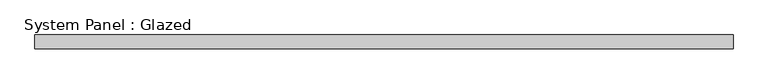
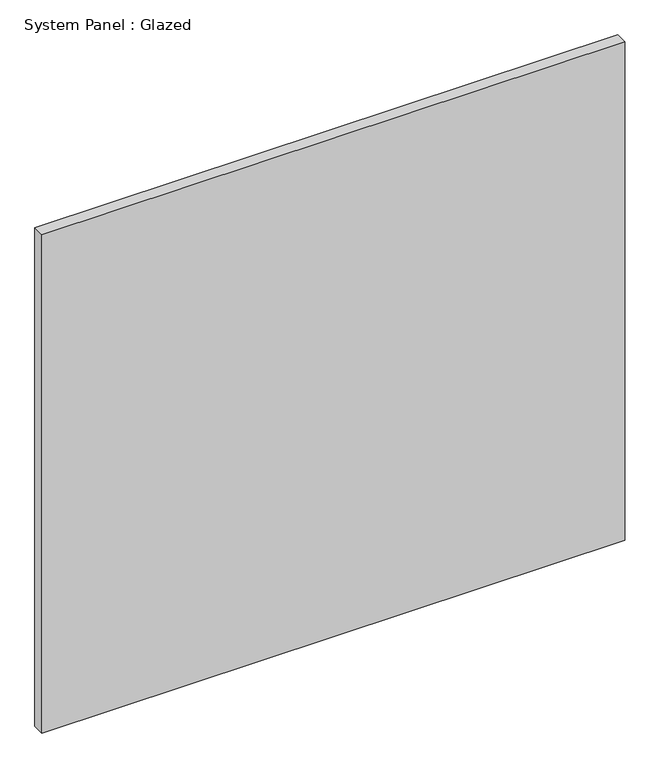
"""IFC4 building model written with IfcOpenShell, lengths in millimetres: plate geometry, System Panel : Glazed."""

from ifc_helpers import new_model, si_unit, origin, origin_with_axes, place, context, project, spatial, polyline, outline, extrude, source, transform, mapped, element, save


def system_panel_glazed_062e6a91(model_context):
    return source(origin(), model_context, "Body", "SweptSolid", [
        extrude(outline(polyline([(622.3125, -49.5), (-622.3125, -49.5), (-622.3125, -24.5), (622.3125, -24.5), (622.3125, -49.5)])), origin_with_axes(), (0.0, 0.0, 1.0), 1125.0),
    ])


if __name__ == "__main__":
    model = new_model("IFC4")
    model_context = context("Model", 3, world=origin())
    ifc_project = project(units=[si_unit("LENGTHUNIT", "METRE", prefix="MILLI")], contexts=[model_context])
    site = spatial("IfcSite", under=ifc_project)
    building = spatial("IfcBuilding", under=site)
    placement = place(None, origin())
    system_panel_glazed_shape = system_panel_glazed_062e6a91(model_context)
    element("IfcPlate", 1, ObjectType="System Panel : Glazed", at=placement, inside=building, context=model_context, shape_type="MappedRepresentation", body=[
        mapped(system_panel_glazed_shape, transform((0.0, 0.0, 0.0), x_axis=(1.0, 0.0, 0.0), y_axis=(0.0, 1.0, 0.0), z_axis=(0.0, 0.0, 1.0))),
    ])
    save(model, "model.ifc")
